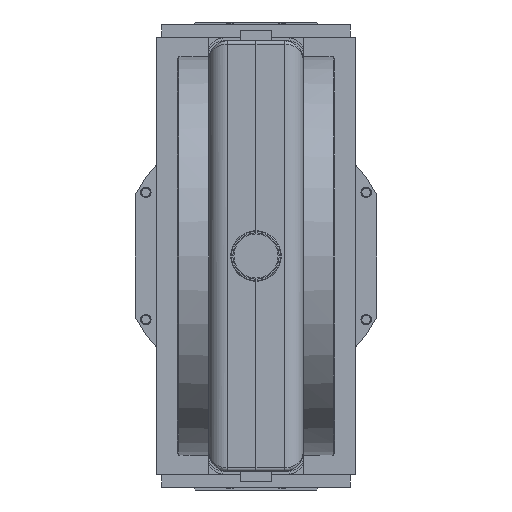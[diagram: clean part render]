
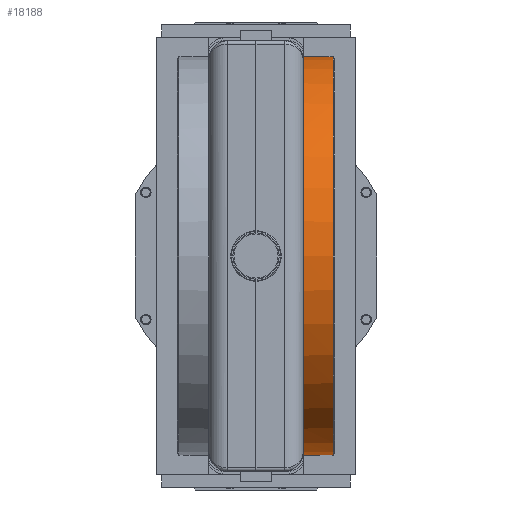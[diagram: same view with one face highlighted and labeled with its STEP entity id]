
A CAD part, left-side view. The second image highlights one B-rep face of the part: STEP entity #18188.
In plain terms, the highlighted cylindrical face has radius 190 mm (diameter 380 mm), a full revolution.
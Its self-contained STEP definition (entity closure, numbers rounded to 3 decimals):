
#7097=B_SPLINE_CURVE_WITH_KNOTS('',3,(#64236,#64237,#64238,#64239,#64240,
#64241,#64242,#64243,#64244,#64245,#64246,#64247,#64248,#64249,#64250,#64251,
#64252,#64253),.UNSPECIFIED.,.T.,.F.,(2,2,2,2,2,2,2,2,2,2,2),(-0.125,0.,
0.125,0.25,0.375,0.5,0.625,0.75,0.875,1.,1.125),.UNSPECIFIED.);
#12335=LINE('',#64226,#14100);
#12336=LINE('',#64230,#14101);
#12337=LINE('',#64231,#14102);
#12338=LINE('',#64235,#14103);
#14100=VECTOR('',#47980,1.);
#14101=VECTOR('',#47983,1.);
#14102=VECTOR('',#47984,1.);
#14103=VECTOR('',#47987,1.);
#14692=CYLINDRICAL_SURFACE('',#40737,190.);
#16204=FACE_BOUND('',#22799,.T.);
#16205=FACE_BOUND('',#22800,.T.);
#16206=FACE_BOUND('',#22801,.T.);
#18188=ADVANCED_FACE('BCT_REF_33022',(#16204,#16205,#16206),#14692,.T.);
#22799=EDGE_LOOP('',(#29686,#29687,#29688,#29689,#29690,#29691,#29692,#29693));
#22800=EDGE_LOOP('',(#29694));
#22801=EDGE_LOOP('',(#29695));
#29686=ORIENTED_EDGE('',*,*,#36514,.T.);
#29687=ORIENTED_EDGE('',*,*,#36548,.T.);
#29688=ORIENTED_EDGE('',*,*,#36549,.F.);
#29689=ORIENTED_EDGE('',*,*,#36550,.T.);
#29690=ORIENTED_EDGE('',*,*,#36544,.T.);
#29691=ORIENTED_EDGE('',*,*,#36551,.F.);
#29692=ORIENTED_EDGE('',*,*,#36552,.T.);
#29693=ORIENTED_EDGE('',*,*,#36553,.F.);
#29694=ORIENTED_EDGE('',*,*,#36554,.F.);
#29695=ORIENTED_EDGE('',*,*,#36555,.F.);
#32896=VERTEX_POINT('',#64140);
#32897=VERTEX_POINT('',#64142);
#32924=VERTEX_POINT('',#64212);
#32925=VERTEX_POINT('',#64213);
#32928=VERTEX_POINT('',#64227);
#32929=VERTEX_POINT('',#64229);
#32930=VERTEX_POINT('',#64232);
#32931=VERTEX_POINT('',#64234);
#32932=VERTEX_POINT('',#64254);
#32933=VERTEX_POINT('',#64256);
#36514=EDGE_CURVE('',#32897,#32896,#37974,.T.);
#36544=EDGE_CURVE('',#32924,#32925,#37997,.T.);
#36548=EDGE_CURVE('',#32896,#32928,#12335,.T.);
#36549=EDGE_CURVE('',#32929,#32928,#37999,.T.);
#36550=EDGE_CURVE('',#32929,#32924,#12336,.T.);
#36551=EDGE_CURVE('',#32930,#32925,#12337,.T.);
#36552=EDGE_CURVE('',#32930,#32931,#38000,.T.);
#36553=EDGE_CURVE('',#32897,#32931,#12338,.T.);
#36554=EDGE_CURVE('',#32932,#32932,#7097,.T.);
#36555=EDGE_CURVE('',#32933,#32933,#38001,.T.);
#37974=CIRCLE('',#40704,190.);
#37997=CIRCLE('',#40731,190.);
#37999=CIRCLE('',#40734,190.);
#38000=CIRCLE('',#40735,190.);
#38001=CIRCLE('',#40736,190.);
#40704=AXIS2_PLACEMENT_3D('',#64141,#47916,#47917);
#40731=AXIS2_PLACEMENT_3D('',#64211,#47974,#47975);
#40734=AXIS2_PLACEMENT_3D('',#64228,#47981,#47982);
#40735=AXIS2_PLACEMENT_3D('',#64233,#47985,#47986);
#40736=AXIS2_PLACEMENT_3D('',#64255,#47988,#47989);
#40737=AXIS2_PLACEMENT_3D('',#64257,#47990,#47991);
#47916=DIRECTION('',(0.,0.,1.));
#47917=DIRECTION('',(0.,-1.,0.));
#47974=DIRECTION('',(0.,0.,1.));
#47975=DIRECTION('',(0.,-1.,0.));
#47980=DIRECTION('',(0.,0.,1.));
#47981=DIRECTION('',(0.,0.,-1.));
#47982=DIRECTION('',(-1.,0.,0.));
#47983=DIRECTION('',(0.,0.,-1.));
#47984=DIRECTION('',(0.,0.,-1.));
#47985=DIRECTION('',(0.,0.,1.));
#47986=DIRECTION('',(1.,0.,0.));
#47987=DIRECTION('',(0.,0.,1.));
#47988=DIRECTION('',(0.,0.,1.));
#47989=DIRECTION('',(0.,-1.,0.));
#47990=DIRECTION('',(0.,0.,1.));
#47991=DIRECTION('',(0.,-1.,0.));
#64140=CARTESIAN_POINT('',(3.,189.976,-73.5));
#64141=CARTESIAN_POINT('',(0.,0.,-73.5));
#64142=CARTESIAN_POINT('',(3.,-189.976,-73.5));
#64211=CARTESIAN_POINT('',(0.,0.,-73.5));
#64212=CARTESIAN_POINT('',(-3.,189.976,-73.5));
#64213=CARTESIAN_POINT('',(-3.,-189.976,-73.5));
#64226=CARTESIAN_POINT('',(3.,189.976,-33.5));
#64227=CARTESIAN_POINT('',(3.,189.976,-72.5));
#64228=CARTESIAN_POINT('',(0.,0.,-72.5));
#64229=CARTESIAN_POINT('',(-3.,189.976,-72.5));
#64230=CARTESIAN_POINT('',(-3.,189.976,-33.5));
#64231=CARTESIAN_POINT('',(-3.,-189.976,-33.5));
#64232=CARTESIAN_POINT('',(-3.,-189.976,-72.5));
#64233=CARTESIAN_POINT('',(0.,0.,-72.5));
#64234=CARTESIAN_POINT('',(3.,-189.976,-72.5));
#64235=CARTESIAN_POINT('',(3.,-189.976,-33.5));
#64236=CARTESIAN_POINT('',(-1.454,190.,-49.5));
#64237=CARTESIAN_POINT('',(1.454,190.,-49.5));
#64238=CARTESIAN_POINT('',(2.875,189.981,-50.096));
#64239=CARTESIAN_POINT('',(4.904,189.939,-52.126));
#64240=CARTESIAN_POINT('',(5.499,189.92,-53.562));
#64241=CARTESIAN_POINT('',(5.501,189.92,-56.432));
#64242=CARTESIAN_POINT('',(4.917,189.939,-57.86));
#64243=CARTESIAN_POINT('',(2.865,189.981,-59.914));
#64244=CARTESIAN_POINT('',(1.438,190.,-60.499));
#64245=CARTESIAN_POINT('',(-1.434,190.,-60.501));
#64246=CARTESIAN_POINT('',(-2.87,189.981,-59.906));
#64247=CARTESIAN_POINT('',(-4.901,189.94,-57.88));
#64248=CARTESIAN_POINT('',(-5.499,189.92,-56.456));
#64249=CARTESIAN_POINT('',(-5.501,189.92,-53.555));
#64250=CARTESIAN_POINT('',(-4.907,189.939,-52.13));
#64251=CARTESIAN_POINT('',(-2.878,189.981,-50.098));
#64252=CARTESIAN_POINT('',(-1.454,190.,-49.5));
#64253=CARTESIAN_POINT('',(1.454,190.,-49.5));
#64254=CARTESIAN_POINT('',(0.,190.,-49.5));
#64255=CARTESIAN_POINT('',(0.,0.,-45.));
#64256=CARTESIAN_POINT('',(0.,-190.,-45.));
#64257=CARTESIAN_POINT('',(0.,0.,-33.5));
